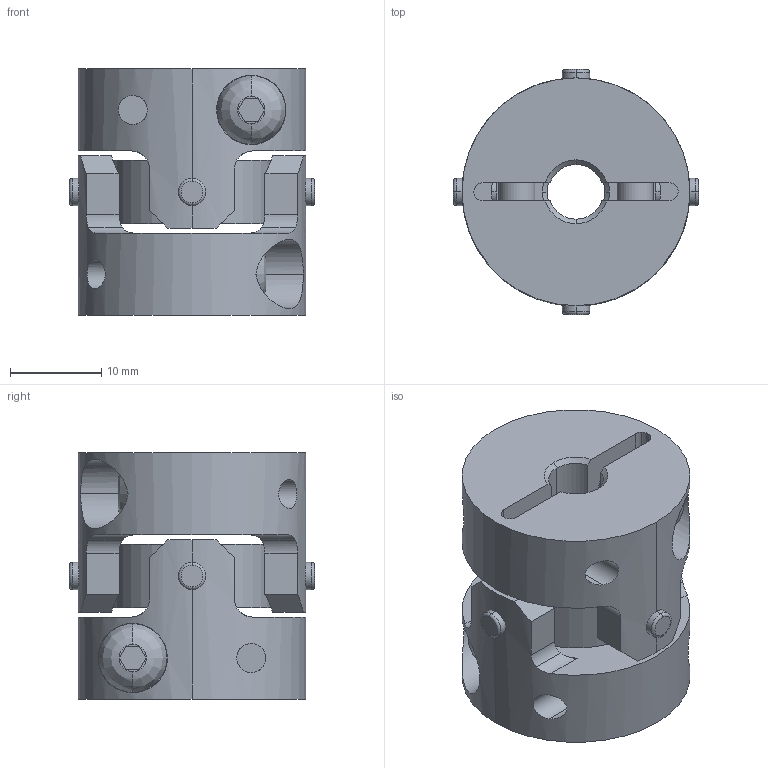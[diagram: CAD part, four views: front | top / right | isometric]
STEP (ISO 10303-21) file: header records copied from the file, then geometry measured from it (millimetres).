
FILE_DESCRIPTION((''),'2;1');
FILE_NAME('UA-25C-6×6.35.stp','2013-05-16T09:16:51',(''),(''),'AutoCAD STEP 2000i','AutoCAD 2000i',', , ');
FILE_SCHEMA(('CONFIG_CONTROL_DESIGN'));
Length unit declared in the file: millimetre
Products named in the file (6): UA-25C-5×5; 忣兜1; UA-2502-D05-1; BTN-M4; UA-2502-D05; UA25-SEN
Assembly tree (6 placements, depth 3):
  UA-25C-5×5
    忣兜1
    UA-2502-D05-1
      BTN-M4
    UA-2502-D05
      BTN-M4
    UA25-SEN
Bounding box: 26.89 x 26.89 x 27 mm (x, y, z)
Volume: 9344.5 mm3; surface area: 6494.2 mm2
Topology: 1 solids, 1 shells, 206 faces, 554 edges, 364 vertices
Faces by surface type: cylinder 96, plane 78, cone 16, bspline 8, torus 8
Entity records: 8291 total; most frequent: CARTESIAN_POINT 2975, ORIENTED_EDGE 1108, DIRECTION 1064, EDGE_CURVE 554, AXIS2_PLACEMENT_3D 409, VERTEX_POINT 364, VECTOR 246, LINE 246
